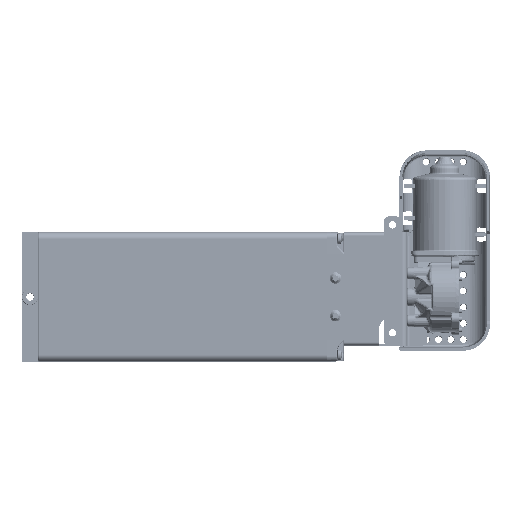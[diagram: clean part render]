
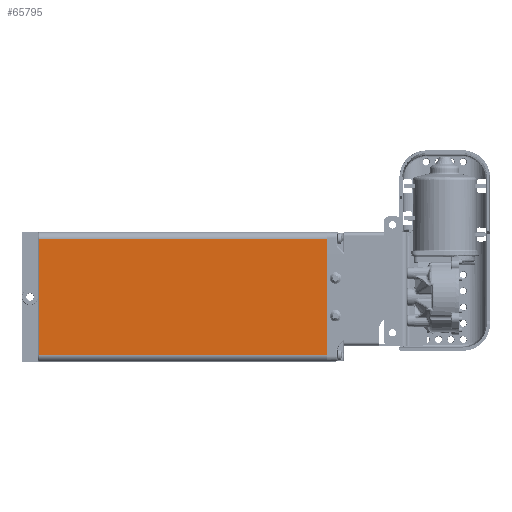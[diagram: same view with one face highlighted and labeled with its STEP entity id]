
A CAD part, top view. The second image highlights one B-rep face of the part: STEP entity #65795.
In plain terms, the highlighted planar face has unit normal (0, 0, 1).
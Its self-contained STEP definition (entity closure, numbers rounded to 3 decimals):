
#5917=LINE('',#113377,#8648);
#5918=LINE('',#113380,#8649);
#5919=LINE('',#113382,#8650);
#5920=LINE('',#113384,#8651);
#8648=VECTOR('',#76691,1000.);
#8649=VECTOR('',#76692,1000.);
#8650=VECTOR('',#76693,1000.);
#8651=VECTOR('',#76694,1000.);
#10768=PLANE('',#69672);
#15925=ORIENTED_EDGE('',*,*,#29813,.T.);
#15926=ORIENTED_EDGE('',*,*,#29814,.T.);
#15927=ORIENTED_EDGE('',*,*,#29815,.T.);
#15928=ORIENTED_EDGE('',*,*,#29816,.T.);
#29813=EDGE_CURVE('',#36985,#36986,#5917,.F.);
#29814=EDGE_CURVE('',#36986,#36987,#5918,.T.);
#29815=EDGE_CURVE('',#36987,#36988,#5919,.T.);
#29816=EDGE_CURVE('',#36988,#36985,#5920,.F.);
#36985=VERTEX_POINT('',#113378);
#36986=VERTEX_POINT('',#113379);
#36987=VERTEX_POINT('',#113381);
#36988=VERTEX_POINT('',#113383);
#43944=EDGE_LOOP('',(#15925,#15926,#15927,#15928));
#47966=FACE_BOUND('',#43944,.T.);
#65795=ADVANCED_FACE('',(#47966),#10768,.T.);
#69672=AXIS2_PLACEMENT_3D('',#113376,#76689,#76690);
#76689=DIRECTION('',(0.,0.,1.));
#76690=DIRECTION('',(1.,0.,0.));
#76691=DIRECTION('',(0.,-1.,0.));
#76692=DIRECTION('',(-1.,0.,0.));
#76693=DIRECTION('',(0.,-1.,0.));
#76694=DIRECTION('',(-1.,0.,0.));
#113376=CARTESIAN_POINT('',(60.,268.5,30.));
#113377=CARTESIAN_POINT('',(54.,268.5,30.));
#113378=CARTESIAN_POINT('',(54.,0.5,30.));
#113379=CARTESIAN_POINT('',(54.,268.,30.));
#113380=CARTESIAN_POINT('',(60.,268.,30.));
#113381=CARTESIAN_POINT('',(-54.,268.,30.));
#113382=CARTESIAN_POINT('',(-54.,268.5,30.));
#113383=CARTESIAN_POINT('',(-54.,0.5,30.));
#113384=CARTESIAN_POINT('',(54.,0.5,30.));
